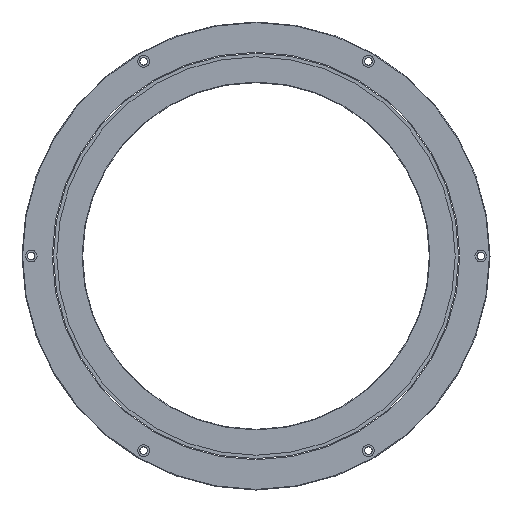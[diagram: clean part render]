
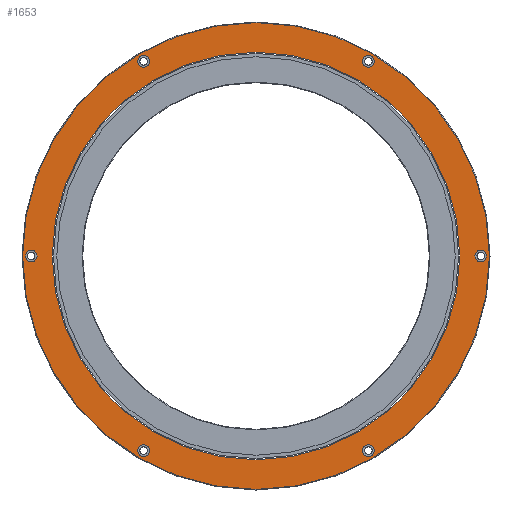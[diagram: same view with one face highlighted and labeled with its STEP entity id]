
A CAD part, front view. The second image highlights one B-rep face of the part: STEP entity #1653.
In plain terms, the highlighted planar face has unit normal (0, -1, 0).
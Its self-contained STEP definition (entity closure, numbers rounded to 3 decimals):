
#371=CARTESIAN_POINT('',(0.,0.,0.));
#372=DIRECTION('',(0.,-1.,0.));
#373=DIRECTION('',(-1.,0.,0.));
#374=AXIS2_PLACEMENT_3D('',#371,#372,#373);
#376=CARTESIAN_POINT('',(0.,0.,0.));
#377=DIRECTION('',(0.,1.,0.));
#378=DIRECTION('',(-1.,0.,0.));
#379=AXIS2_PLACEMENT_3D('',#376,#377,#378);
#381=CARTESIAN_POINT('',(-194.5,0.,0.));
#382=DIRECTION('',(0.,1.,0.));
#383=DIRECTION('',(1.,0.,0.));
#384=AXIS2_PLACEMENT_3D('',#381,#382,#383);
#386=CARTESIAN_POINT('',(-194.5,0.,0.));
#387=DIRECTION('',(0.,1.,0.));
#388=DIRECTION('',(-1.,0.,0.));
#389=AXIS2_PLACEMENT_3D('',#386,#387,#388);
#391=CARTESIAN_POINT('',(-97.25,0.,168.442));
#392=DIRECTION('',(0.,1.,0.));
#393=DIRECTION('',(0.5,0.,-0.866));
#394=AXIS2_PLACEMENT_3D('',#391,#392,#393);
#396=CARTESIAN_POINT('',(-97.25,0.,168.442));
#397=DIRECTION('',(0.,1.,0.));
#398=DIRECTION('',(-0.5,0.,0.866));
#399=AXIS2_PLACEMENT_3D('',#396,#397,#398);
#401=CARTESIAN_POINT('',(97.25,0.,168.442));
#402=DIRECTION('',(0.,1.,0.));
#403=DIRECTION('',(-0.5,0.,-0.866));
#404=AXIS2_PLACEMENT_3D('',#401,#402,#403);
#406=CARTESIAN_POINT('',(97.25,0.,168.442));
#407=DIRECTION('',(0.,1.,0.));
#408=DIRECTION('',(0.5,0.,0.866));
#409=AXIS2_PLACEMENT_3D('',#406,#407,#408);
#411=CARTESIAN_POINT('',(194.5,0.,0.));
#412=DIRECTION('',(0.,1.,0.));
#413=DIRECTION('',(-1.,0.,0.));
#414=AXIS2_PLACEMENT_3D('',#411,#412,#413);
#416=CARTESIAN_POINT('',(194.5,0.,0.));
#417=DIRECTION('',(0.,1.,0.));
#418=DIRECTION('',(1.,0.,0.));
#419=AXIS2_PLACEMENT_3D('',#416,#417,#418);
#421=CARTESIAN_POINT('',(97.25,0.,-168.442));
#422=DIRECTION('',(0.,1.,0.));
#423=DIRECTION('',(-0.5,0.,0.866));
#424=AXIS2_PLACEMENT_3D('',#421,#422,#423);
#426=CARTESIAN_POINT('',(97.25,0.,-168.442));
#427=DIRECTION('',(0.,1.,0.));
#428=DIRECTION('',(0.5,0.,-0.866));
#429=AXIS2_PLACEMENT_3D('',#426,#427,#428);
#431=CARTESIAN_POINT('',(-97.25,0.,-168.442));
#432=DIRECTION('',(0.,1.,0.));
#433=DIRECTION('',(0.5,0.,0.866));
#434=AXIS2_PLACEMENT_3D('',#431,#432,#433);
#436=CARTESIAN_POINT('',(-97.25,0.,-168.442));
#437=DIRECTION('',(0.,1.,0.));
#438=DIRECTION('',(-0.5,0.,-0.866));
#439=AXIS2_PLACEMENT_3D('',#436,#437,#438);
#441=CARTESIAN_POINT('',(0.,0.,0.));
#442=DIRECTION('',(0.,1.,0.));
#443=DIRECTION('',(-1.,0.,0.));
#444=AXIS2_PLACEMENT_3D('',#441,#442,#443);
#446=CARTESIAN_POINT('',(0.,0.,0.));
#447=DIRECTION('',(0.,1.,0.));
#448=DIRECTION('',(1.,0.,0.));
#449=AXIS2_PLACEMENT_3D('',#446,#447,#448);
#919=CARTESIAN_POINT('',(-189.5,0.,0.));
#920=VERTEX_POINT('',#919);
#921=CARTESIAN_POINT('',(-199.5,0.,0.));
#922=VERTEX_POINT('',#921);
#931=CARTESIAN_POINT('',(-94.75,0.,164.112));
#932=VERTEX_POINT('',#931);
#933=CARTESIAN_POINT('',(-99.75,0.,172.772));
#934=VERTEX_POINT('',#933);
#943=CARTESIAN_POINT('',(94.75,0.,164.112));
#944=VERTEX_POINT('',#943);
#945=CARTESIAN_POINT('',(99.75,0.,172.772));
#946=VERTEX_POINT('',#945);
#955=CARTESIAN_POINT('',(189.5,0.,0.));
#956=VERTEX_POINT('',#955);
#957=CARTESIAN_POINT('',(199.5,0.,0.));
#958=VERTEX_POINT('',#957);
#976=CARTESIAN_POINT('',(-176.3,0.,0.));
#978=VERTEX_POINT('',#976);
#980=CARTESIAN_POINT('',(176.3,0.,0.));
#982=VERTEX_POINT('',#980);
#995=CARTESIAN_POINT('',(-202.,0.,0.));
#996=CARTESIAN_POINT('',(202.,0.,0.));
#997=VERTEX_POINT('',#995);
#998=VERTEX_POINT('',#996);
#1043=CARTESIAN_POINT('',(94.75,0.,-164.112));
#1044=CARTESIAN_POINT('',(99.75,0.,-172.772));
#1045=VERTEX_POINT('',#1043);
#1046=VERTEX_POINT('',#1044);
#1055=CARTESIAN_POINT('',(-94.75,0.,-164.112));
#1056=CARTESIAN_POINT('',(-99.75,0.,-172.772));
#1057=VERTEX_POINT('',#1055);
#1058=VERTEX_POINT('',#1056);
#1604=CARTESIAN_POINT('',(0.,0.,0.));
#1605=DIRECTION('',(0.,1.,0.));
#1606=DIRECTION('',(1.,0.,0.));
#1607=AXIS2_PLACEMENT_3D('',#1604,#1605,#1606);
#1608=PLANE('',#1607);
#1609=ORIENTED_EDGE('',*,*,#1090,.T.);
#1610=ORIENTED_EDGE('',*,*,#1105,.T.);
#1611=EDGE_LOOP('',(#1609,#1610));
#1612=FACE_OUTER_BOUND('',#1611,.F.);
#1614=ORIENTED_EDGE('',*,*,#1613,.F.);
#1616=ORIENTED_EDGE('',*,*,#1615,.F.);
#1617=EDGE_LOOP('',(#1614,#1616));
#1618=FACE_BOUND('',#1617,.F.);
#1620=ORIENTED_EDGE('',*,*,#1619,.F.);
#1622=ORIENTED_EDGE('',*,*,#1621,.F.);
#1623=EDGE_LOOP('',(#1620,#1622));
#1624=FACE_BOUND('',#1623,.F.);
#1626=ORIENTED_EDGE('',*,*,#1625,.F.);
#1628=ORIENTED_EDGE('',*,*,#1627,.F.);
#1629=EDGE_LOOP('',(#1626,#1628));
#1630=FACE_BOUND('',#1629,.F.);
#1632=ORIENTED_EDGE('',*,*,#1631,.F.);
#1634=ORIENTED_EDGE('',*,*,#1633,.F.);
#1635=EDGE_LOOP('',(#1632,#1634));
#1636=FACE_BOUND('',#1635,.F.);
#1638=ORIENTED_EDGE('',*,*,#1637,.F.);
#1640=ORIENTED_EDGE('',*,*,#1639,.F.);
#1641=EDGE_LOOP('',(#1638,#1640));
#1642=FACE_BOUND('',#1641,.F.);
#1644=ORIENTED_EDGE('',*,*,#1643,.F.);
#1646=ORIENTED_EDGE('',*,*,#1645,.F.);
#1647=EDGE_LOOP('',(#1644,#1646));
#1648=FACE_BOUND('',#1647,.F.);
#1649=ORIENTED_EDGE('',*,*,#1599,.T.);
#1650=ORIENTED_EDGE('',*,*,#1583,.F.);
#1651=EDGE_LOOP('',(#1649,#1650));
#1652=FACE_BOUND('',#1651,.F.);
#375=CIRCLE('',#374,176.3);
#380=CIRCLE('',#379,176.3);
#385=CIRCLE('',#384,5.);
#390=CIRCLE('',#389,5.);
#395=CIRCLE('',#394,5.);
#400=CIRCLE('',#399,5.);
#405=CIRCLE('',#404,5.);
#410=CIRCLE('',#409,5.);
#415=CIRCLE('',#414,5.);
#420=CIRCLE('',#419,5.);
#425=CIRCLE('',#424,5.);
#430=CIRCLE('',#429,5.);
#435=CIRCLE('',#434,5.);
#440=CIRCLE('',#439,5.);
#445=CIRCLE('',#444,202.);
#450=CIRCLE('',#449,202.);
#1090=EDGE_CURVE('',#997,#998,#445,.T.);
#1105=EDGE_CURVE('',#998,#997,#450,.T.);
#1583=EDGE_CURVE('',#978,#982,#380,.T.);
#1599=EDGE_CURVE('',#978,#982,#375,.T.);
#1613=EDGE_CURVE('',#920,#922,#385,.T.);
#1615=EDGE_CURVE('',#922,#920,#390,.T.);
#1619=EDGE_CURVE('',#932,#934,#395,.T.);
#1621=EDGE_CURVE('',#934,#932,#400,.T.);
#1625=EDGE_CURVE('',#944,#946,#405,.T.);
#1627=EDGE_CURVE('',#946,#944,#410,.T.);
#1631=EDGE_CURVE('',#956,#958,#415,.T.);
#1633=EDGE_CURVE('',#958,#956,#420,.T.);
#1637=EDGE_CURVE('',#1045,#1046,#425,.T.);
#1639=EDGE_CURVE('',#1046,#1045,#430,.T.);
#1643=EDGE_CURVE('',#1057,#1058,#435,.T.);
#1645=EDGE_CURVE('',#1058,#1057,#440,.T.);
#1653=ADVANCED_FACE('',(#1612,#1618,#1624,#1630,#1636,#1642,#1648,#1652),#1608,
.F.);
